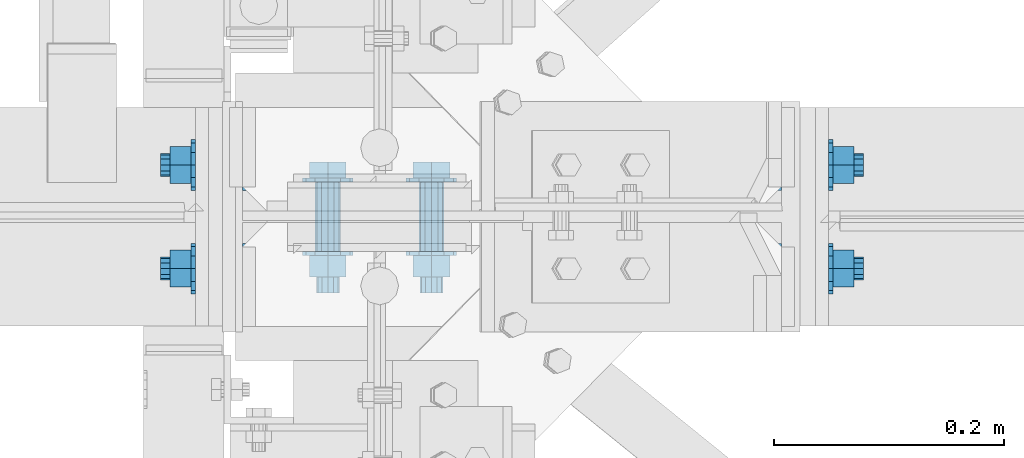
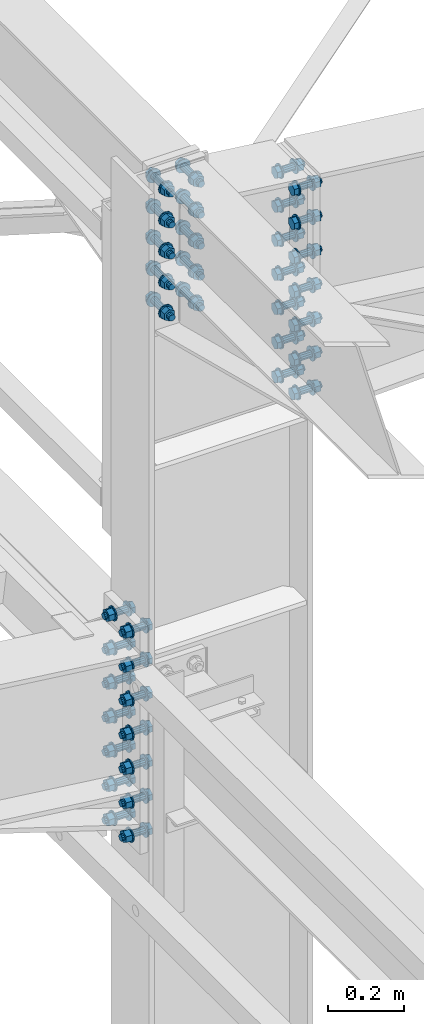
# One storey, part 138 of 3134: 3 mechanical fasteners, 3 elements without a shape of their own.
"""IFC2X3 building model written with IfcOpenShell, lengths in millimetres."""

import ifcopenshell
import ifcopenshell.guid

model = None  # the IFC model being written
_history = None  # IfcOwnerHistory: only IFC2X3 demands one
_inside = {}  # id of a spatial element -> (the spatial element, [elements in it])
_under = {}  # id of a project, library or spatial element -> (it, [spatial elements below it])
_declared = {}  # id of a project -> (the project, [libraries it declares])
_typed = {}  # id of a type object -> (the type object, [elements of that type])
_made_of = {}  # id of a material, layer set ... -> (it, [elements and type objects made of it])


def new_model(schema):
    """Start an empty IFC model of exactly this schema.

    Asked for "IFC4X3", IfcOpenShell would pick the latest addendum, in which some entities
    have other attributes; the version numbers below select the first issue.
    IFC2X3 requires an IfcOwnerHistory on every rooted entity: one is made here for all.
    """
    global model, _history
    if schema == "IFC4X3":
        model = ifcopenshell.file(schema_version=(4, 3, 0, 0))
    else:
        model = ifcopenshell.file(schema=schema)
    _inside.clear()
    _under.clear()
    _declared.clear()
    _typed.clear()
    _made_of.clear()
    _history = None
    if model.schema == "IFC2X3":
        org = make("IfcOrganization", Name="unknown")
        user = make(
            "IfcPersonAndOrganization",
            ThePerson=make("IfcPerson", FamilyName="unknown"),
            TheOrganization=org,
        )
        app = make(
            "IfcApplication",
            ApplicationDeveloper=org,
            Version="unknown",
            ApplicationFullName="unknown",
            ApplicationIdentifier="unknown",
        )
        _history = make(
            "IfcOwnerHistory",
            OwningUser=user,
            OwningApplication=app,
            ChangeAction="ADDED",
            CreationDate=0,
        )
    return model


def make(cls, **values):
    """One entity of the class cls with the attributes given. An attribute that is None is left unset."""
    return model.create_entity(
        cls, **{name: value for name, value in values.items() if value is not None}
    )


def rooted(cls, **values):
    """An entity with a GlobalId (a new one), such as an element, a storey or a relation."""
    return make(cls, GlobalId=ifcopenshell.guid.new(), OwnerHistory=_history, **values)


def si_unit(unit_type, name, prefix=None):
    """IfcSIUnit, for example si_unit("LENGTHUNIT", "METRE", prefix="MILLI")."""
    return make("IfcSIUnit", UnitType=unit_type, Prefix=prefix, Name=name)


def assignment(units):
    """IfcUnitAssignment: the units of a project."""
    return None if units is None else make("IfcUnitAssignment", Units=units)


def point(xyz):
    """IfcCartesianPoint."""
    return None if xyz is None else make("IfcCartesianPoint", Coordinates=xyz)


def direction(xyz):
    """IfcDirection."""
    return None if xyz is None else make("IfcDirection", DirectionRatios=xyz)


def frame(location, z_axis=None, x_axis=None):
    """IfcAxis2Placement3D, a coordinate frame: its origin and axes. An axis left out is left unset."""
    return make(
        "IfcAxis2Placement3D",
        Location=point(location),
        Axis=direction(z_axis),
        RefDirection=direction(x_axis),
    )


def origin_with_axes():
    """The frame at (0, 0, 0) with the z axis (0, 0, 1) and the x axis (1, 0, 0) written out."""
    return frame((0.0, 0.0, 0.0), z_axis=(0.0, 0.0, 1.0), x_axis=(1.0, 0.0, 0.0))


def place(relative_to, where):
    """IfcLocalPlacement: puts the frame where relative to a parent placement (None: the world)."""
    return make(
        "IfcLocalPlacement", PlacementRelTo=relative_to, RelativePlacement=where
    )


def context(
    kind, dimensions, precision=None, world=None, true_north=None, identifier=None
):
    """IfcGeometricRepresentationContext, for example the 3D "Model" context."""
    return make(
        "IfcGeometricRepresentationContext",
        ContextIdentifier=identifier,
        ContextType=kind,
        CoordinateSpaceDimension=dimensions,
        Precision=precision,
        WorldCoordinateSystem=world,
        TrueNorth=true_north,
    )


def subcontext(parent, identifier, kind, view, scale=None):
    """IfcGeometricRepresentationSubContext, for example "Body" below "Model"."""
    return make(
        "IfcGeometricRepresentationSubContext",
        ContextIdentifier=identifier,
        ContextType=kind,
        ParentContext=parent,
        TargetScale=scale,
        TargetView=view,
    )


def project(units=None, contexts=None):
    """IfcProject with its units and contexts."""
    return rooted(
        "IfcProject",
        Name="project",
        RepresentationContexts=contexts,
        UnitsInContext=assignment(units),
    )


def spatial(cls, under=None, at=None, **own):
    """A site, building, storey or space (cls), placed at a placement, below another one or the project."""
    s = rooted(cls, ObjectPlacement=at, **own)
    if under is not None:
        _under.setdefault(under.id(), (under, []))[1].append(s)
    return s


def faces_of(points, faces, orient=None, outer=None):
    """IfcFace entities. A face is a list of loops; a loop is a list of indices into points, from 0.

    orient and outer hold one flag for each loop. By default every Orientation is true, the
    first loop of a face is its IfcFaceOuterBound and the others are IfcFaceBound.
    """
    made = []
    for i, loops in enumerate(faces):
        bounds = []
        for j, loop in enumerate(loops):
            is_outer = j == 0 if outer is None else outer[i][j]
            bounds.append(
                make(
                    "IfcFaceOuterBound" if is_outer else "IfcFaceBound",
                    Bound=make("IfcPolyLoop", Polygon=[points[k] for k in loop]),
                    Orientation=True if orient is None else orient[i][j],
                )
            )
        made.append(make("IfcFace", Bounds=bounds))
    return made


def faceted_brep(points, faces, orient=None, outer=None, voids=None):
    """IfcFacetedBrep: a solid bounded by flat faces; with voids (closed shells), ...WithVoids."""
    shared = [point(p) for p in points]
    hull = make("IfcClosedShell", CfsFaces=faces_of(shared, faces, orient, outer))
    if voids is None:
        return make("IfcFacetedBrep", Outer=hull)
    return make(
        "IfcFacetedBrepWithVoids",
        Outer=hull,
        Voids=[
            make(cls, CfsFaces=faces_of(shared, fs, o, b)) for cls, fs, o, b in voids
        ],
    )


def shape(context_of_items, identifier, shape_type, items):
    """IfcShapeRepresentation: the items that make up one representation, for example the "Body"."""
    return make(
        "IfcShapeRepresentation",
        ContextOfItems=context_of_items,
        RepresentationIdentifier=identifier,
        RepresentationType=shape_type,
        Items=items,
    )


def source(mapping_origin, context_of_items, identifier, shape_type, items):
    """IfcRepresentationMap: a shape defined once, which mapped items show again and again."""
    return make(
        "IfcRepresentationMap",
        MappingOrigin=mapping_origin,
        MappedRepresentation=shape(context_of_items, identifier, shape_type, items),
    )


def transform(
    local_origin,
    x_axis=None,
    y_axis=None,
    z_axis=None,
    scale=None,
    scale2=None,
    scale3=None,
    uniform=True,
):
    """IfcCartesianTransformationOperator3D, or its non-uniform kind. x_axis, y_axis, z_axis: its Axis1, 2, 3."""
    if uniform:
        return make(
            "IfcCartesianTransformationOperator3D",
            Axis1=direction(x_axis),
            Axis2=direction(y_axis),
            LocalOrigin=point(local_origin),
            Scale=scale,
            Axis3=direction(z_axis),
        )
    return make(
        "IfcCartesianTransformationOperator3DnonUniform",
        Axis1=direction(x_axis),
        Axis2=direction(y_axis),
        LocalOrigin=point(local_origin),
        Scale=scale,
        Axis3=direction(z_axis),
        Scale2=scale2,
        Scale3=scale3,
    )


def mapped(mapping_source, mapping_target):
    """IfcMappedItem: shows the shape of a source again, moved by a transform."""
    return make(
        "IfcMappedItem", MappingSource=mapping_source, MappingTarget=mapping_target
    )


def material(Name=None, Category=None):
    """IfcMaterial."""
    return make("IfcMaterial", Name=Name, Category=Category)


def made_of(thing, what):
    """Note that an element or type object is made of a material, layer set ...; save() writes the relation."""
    if what is not None:
        _made_of.setdefault(what.id(), (what, []))[1].append(thing)
    return thing


def type_object(cls, material=None, **own):
    """A type object (cls), such as IfcWallType, which elements share."""
    return made_of(rooted(cls, **own), material)


def element(
    cls,
    number,
    at=None,
    inside=None,
    cuts=None,
    type_object=None,
    material=None,
    context=None,
    identifier="Body",
    shape_type=None,
    held_by="IfcProductDefinitionShape",
    body=None,
    shapes=None,
    **own,
):
    """One element of the class cls, such as IfcWall. Its Tag is "e" and its number.

    at: its placement. inside: the storey or other place that contains it. cuts: it is an
    opening in that element (IfcRelVoidsElement). A single representation is given by context,
    identifier, shape_type and body (its items); several are given by shapes. held_by: the class
    of the entity that holds the representations. save() writes the other relations.
    """
    e = rooted(cls, Tag="e%d" % number, ObjectPlacement=at, **own)
    if body is not None:
        shapes = [shape(context, identifier, shape_type, body)]
    if shapes is not None:
        e.Representation = make(held_by, Representations=shapes)
    if inside is not None:
        _inside.setdefault(inside.id(), (inside, []))[1].append(e)
    if cuts is not None:
        rooted(
            "IfcRelVoidsElement", RelatingBuildingElement=cuts, RelatedOpeningElement=e
        )
    if type_object is not None:
        _typed.setdefault(type_object.id(), (type_object, []))[1].append(e)
    return made_of(e, material)


def aggregate(whole, parts):
    """IfcRelAggregates: a whole, such as a stair, and the parts it consists of."""
    return rooted("IfcRelAggregates", RelatingObject=whole, RelatedObjects=parts)


def save(model, path):
    """Write the relations noted so far, then the file.

    IfcRelAggregates (storeys below a building ...), IfcRelContainedInSpatialStructure (elements
    in a storey), IfcRelDefinesByType, IfcRelAssociatesMaterial and IfcRelDeclares: one each for
    every whole, place, type object, material and project.
    """
    for whole, parts in _under.values():
        aggregate(whole, parts)
    for where, things in _inside.values():
        rooted(
            "IfcRelContainedInSpatialStructure",
            RelatedElements=things,
            RelatingStructure=where,
        )
    for kind, things in _typed.values():
        rooted("IfcRelDefinesByType", RelatedObjects=things, RelatingType=kind)
    for what, things in _made_of.values():
        rooted("IfcRelAssociatesMaterial", RelatedObjects=things, RelatingMaterial=what)
    for by, libraries in _declared.values():
        rooted("IfcRelDeclares", RelatingContext=by, RelatedDefinitions=libraries)
    model.write(path)


model = new_model("IFC2X3")

# Units and contexts
model_context = context("Model", 3, precision=1e-05, world=origin_with_axes())
body_context = subcontext(model_context, "Body", "Model", "MODEL_VIEW")
ifc_project = project(units=[si_unit("LENGTHUNIT", "METRE", prefix="MILLI"), si_unit("AREAUNIT", "SQUARE_METRE"), si_unit("VOLUMEUNIT", "CUBIC_METRE"), si_unit("MASSUNIT", "GRAM", prefix="KILO"), si_unit("TIMEUNIT", "SECOND"), si_unit("PLANEANGLEUNIT", "RADIAN"), si_unit("SOLIDANGLEUNIT", "STERADIAN"), si_unit("THERMODYNAMICTEMPERATUREUNIT", "DEGREE_CELSIUS"), si_unit("LUMINOUSINTENSITYUNIT", "LUMEN")], contexts=[model_context])

# Site, building, storey
site_placement = place(None, origin_with_axes())
site = spatial("IfcSite", under=ifc_project, at=site_placement, CompositionType="ELEMENT")
building_placement = place(site_placement, origin_with_axes())
building = spatial("IfcBuilding", under=site, at=building_placement, Name="Undefined", CompositionType="ELEMENT")
storey_placement = place(building_placement, origin_with_axes())
storey = spatial("IfcBuildingStorey", under=building, at=storey_placement, Name="Undefined", CompositionType="ELEMENT", Elevation=0.0)

# Assembly, mechanical fastener
assembly_1_placement = place(storey_placement, origin_with_axes())
assembly_1 = element("IfcElementAssembly", 1, at=assembly_1_placement, inside=storey, Name="IPE450", AssemblyPlace="NOTDEFINED", PredefinedType="RIGID_FRAME")
ifc_material = material(Name="HR10.9")
mechanical_fastener_type = type_object("IfcMechanicalFastenerType", Name="Bolt assembly")
shared_shape_1 = source(origin_with_axes(), body_context, "Body", "Brep", [
    faceted_brep([(18.475208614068, -33.599999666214, 0.0), (9.23760430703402, -33.599999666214, 16.0), (-9.23760430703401, -33.599999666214, 16.0), (-18.475208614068, -33.599999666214, 2.2625605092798e-15), (-9.23760430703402, -33.599999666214, -16.0), (9.237604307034, -33.599999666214, -16.0), (9.237604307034, -19.7000000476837, -16.0), (-9.23760430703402, -19.7000000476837, -16.0), (-18.475208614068, -19.7000000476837, 2.2625605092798e-15), (-9.23760430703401, -19.7000000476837, 16.0), (9.23760430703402, -19.7000000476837, 16.0), (18.475208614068, -19.7000000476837, 0.0), (10.0, -19.7000000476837, 0.0), (8.66025403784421, -19.7000000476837, 5.0000000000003), (4.9999999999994, -19.7000000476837, 8.66025403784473), (-1.03633598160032e-12, -19.7000000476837, 10.0), (-5.00000000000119, -19.7000000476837, 8.6602540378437), (-8.66025403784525, -19.7000000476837, 4.99999999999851), (-10.0, -19.7000000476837, -2.07267196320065e-12), (-8.66025403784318, -19.7000000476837, -5.00000000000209), (-4.99999999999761, -19.7000000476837, -8.66025403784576), (3.09790571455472e-12, -19.7000000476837, -10.0), (5.00000000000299, -19.7000000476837, -8.66025403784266), (8.66025403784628, -19.7000000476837, -4.99999999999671), (8.66025403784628, 55.2999999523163, -4.99999999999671), (5.00000000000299, 55.2999999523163, -8.66025403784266), (3.09790571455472e-12, 55.2999999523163, -10.0), (-4.99999999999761, 55.2999999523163, -8.66025403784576), (-8.66025403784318, 55.2999999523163, -5.00000000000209), (-10.0, 55.2999999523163, -2.07267196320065e-12), (-8.66025403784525, 55.2999999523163, 4.99999999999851), (-5.00000000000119, 55.2999999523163, 8.6602540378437), (-1.03633598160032e-12, 55.2999999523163, 10.0), (4.9999999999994, 55.2999999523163, 8.66025403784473), (8.66025403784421, 55.2999999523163, 5.0000000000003), (10.0, 55.2999999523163, 0.0), (22.0, -19.7000000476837, 0.0), (19.0525588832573, -19.7000000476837, 11.0000000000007), (10.9999999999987, -19.7000000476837, 19.0525588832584), (-2.27993915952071e-12, -19.7000000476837, 22.0), (-11.0000000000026, -19.7000000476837, 19.0525588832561), (-19.0525588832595, -19.7000000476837, 10.9999999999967), (-22.0, -19.7000000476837, -4.55987831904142e-12), (-19.052558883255, -19.7000000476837, -11.0000000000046), (-10.9999999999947, -19.7000000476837, -19.0525588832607), (6.81539257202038e-12, -19.7000000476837, -22.0), (11.0000000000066, -19.7000000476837, -19.0525588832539), (19.0525588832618, -19.7000000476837, -10.9999999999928), (19.0525588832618, -16.0, -10.9999999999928), (11.0000000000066, -16.0, -19.0525588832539), (6.81539257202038e-12, -16.0, -22.0), (-10.9999999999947, -16.0, -19.0525588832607), (-19.052558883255, -16.0, -11.0000000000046), (-22.0, -16.0, -4.55987831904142e-12), (-19.0525588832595, -16.0, 10.9999999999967), (-11.0000000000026, -16.0, 19.0525588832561), (-2.27993915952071e-12, -16.0, 22.0), (10.9999999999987, -16.0, 19.0525588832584), (19.0525588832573, -16.0, 11.0000000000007), (22.0, -16.0, 0.0), (22.0, 25.0, 0.0), (19.0525588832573, 25.0, 11.0000000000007), (10.9999999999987, 25.0, 19.0525588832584), (-2.27993915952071e-12, 25.0, 22.0), (-11.0000000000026, 25.0, 19.0525588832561), (-19.0525588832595, 25.0, 10.9999999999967), (-22.0, 25.0, -4.55987831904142e-12), (-19.052558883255, 25.0, -11.0000000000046), (-10.9999999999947, 25.0, -19.0525588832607), (6.81539257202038e-12, 25.0, -22.0), (11.0000000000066, 25.0, -19.0525588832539), (19.0525588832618, 25.0, -10.9999999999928), (19.0525588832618, 28.7000000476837, -10.9999999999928), (11.0000000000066, 28.7000000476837, -19.0525588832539), (6.81539257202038e-12, 28.7000000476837, -22.0), (-10.9999999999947, 28.7000000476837, -19.0525588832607), (-19.052558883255, 28.7000000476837, -11.0000000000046), (-22.0, 28.7000000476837, -4.55987831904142e-12), (-19.0525588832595, 28.7000000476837, 10.9999999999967), (-11.0000000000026, 28.7000000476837, 19.0525588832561), (-2.27993915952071e-12, 28.7000000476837, 22.0), (10.9999999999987, 28.7000000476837, 19.0525588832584), (19.0525588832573, 28.7000000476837, 11.0000000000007), (22.0, 28.7000000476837, 0.0), (18.475208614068, 28.7000000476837, 0.0), (9.23760430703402, 28.7000000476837, 16.0), (-9.23760430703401, 28.7000000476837, 16.0), (-18.475208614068, 28.7000000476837, 2.2625605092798e-15), (-9.23760430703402, 28.7000000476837, -16.0), (9.237604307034, 28.7000000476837, -16.0), (9.237604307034, 47.2499992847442, -16.0), (-9.23760430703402, 47.2499992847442, -16.0), (-18.475208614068, 47.2499992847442, 2.2625605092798e-15), (-9.23760430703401, 47.2499992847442, 16.0), (9.23760430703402, 47.2499992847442, 16.0), (18.475208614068, 47.2499992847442, 0.0)], [[[0, 1, 2, 3, 4, 5]], [[6, 7, 8, 9, 10, 11]], [[0, 11, 10, 1]], [[1, 10, 9, 2]], [[2, 9, 8, 3]], [[3, 8, 7, 4]], [[4, 7, 6, 5]], [[5, 6, 11, 0]], [[12, 13, 14, 15, 16, 17, 18, 19, 20, 21, 22, 23]], [[24, 25, 26, 27, 28, 29, 30, 31, 32, 33, 34, 35]], [[12, 35, 34, 13]], [[13, 34, 33, 14]], [[14, 33, 32, 15]], [[15, 32, 31, 16]], [[16, 31, 30, 17]], [[17, 30, 29, 18]], [[18, 29, 28, 19]], [[19, 28, 27, 20]], [[20, 27, 26, 21]], [[21, 26, 25, 22]], [[22, 25, 24, 23]], [[23, 24, 35, 12]], [[36, 37, 38, 39, 40, 41, 42, 43, 44, 45, 46, 47]], [[48, 49, 50, 51, 52, 53, 54, 55, 56, 57, 58, 59]], [[36, 59, 58, 37]], [[37, 58, 57, 38]], [[38, 57, 56, 39]], [[39, 56, 55, 40]], [[40, 55, 54, 41]], [[41, 54, 53, 42]], [[42, 53, 52, 43]], [[43, 52, 51, 44]], [[44, 51, 50, 45]], [[45, 50, 49, 46]], [[46, 49, 48, 47]], [[47, 48, 59, 36]], [[60, 61, 62, 63, 64, 65, 66, 67, 68, 69, 70, 71]], [[72, 73, 74, 75, 76, 77, 78, 79, 80, 81, 82, 83]], [[60, 83, 82, 61]], [[61, 82, 81, 62]], [[62, 81, 80, 63]], [[63, 80, 79, 64]], [[64, 79, 78, 65]], [[65, 78, 77, 66]], [[66, 77, 76, 67]], [[67, 76, 75, 68]], [[68, 75, 74, 69]], [[69, 74, 73, 70]], [[70, 73, 72, 71]], [[71, 72, 83, 60]], [[84, 85, 86, 87, 88, 89]], [[90, 91, 92, 93, 94, 95]], [[84, 95, 94, 85]], [[85, 94, 93, 86]], [[86, 93, 92, 87]], [[87, 92, 91, 88]], [[88, 91, 90, 89]], [[89, 90, 95, 84]]]),
    faceted_brep([(11.0, -15.9, 0.0), (9.52627944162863, -15.9, 5.50000000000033), (5.49999999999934, -15.9, 9.5262794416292), (-1.13996957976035e-12, -15.9, 11.0), (-5.50000000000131, -15.9, 9.52627944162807), (-9.52627944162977, -15.9, 5.49999999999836), (-11.0, -15.9, -2.27993915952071e-12), (-9.5262794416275, -15.9, -5.5000000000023), (-5.49999999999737, -15.9, -9.52627944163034), (3.40769628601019e-12, -15.9, -11.0), (5.50000000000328, -15.9, -9.52627944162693), (9.52627944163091, -15.9, -5.49999999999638), (9.52627944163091, 0.0999999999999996, -5.49999999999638), (5.50000000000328, 0.0999999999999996, -9.52627944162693), (3.40769628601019e-12, 0.0999999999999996, -11.0), (-5.49999999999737, 0.0999999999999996, -9.52627944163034), (-9.5262794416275, 0.0999999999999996, -5.5000000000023), (-11.0, 0.0999999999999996, -2.27993915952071e-12), (-9.52627944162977, 0.0999999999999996, 5.49999999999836), (-5.50000000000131, 0.0999999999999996, 9.52627944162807), (-1.13996957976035e-12, 0.0999999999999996, 11.0), (5.49999999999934, 0.0999999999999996, 9.5262794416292), (9.52627944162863, 0.0999999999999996, 5.50000000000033), (11.0, 0.0999999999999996, 0.0), (11.0, -0.1, 0.0), (9.52627944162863, -0.1, 5.50000000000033), (5.49999999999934, -0.1, 9.5262794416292), (-1.13996957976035e-12, -0.1, 11.0), (-5.50000000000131, -0.1, 9.52627944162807), (-9.52627944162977, -0.1, 5.49999999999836), (-11.0, -0.1, -2.27993915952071e-12), (-9.5262794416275, -0.1, -5.5000000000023), (-5.49999999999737, -0.1, -9.52627944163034), (3.40769628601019e-12, -0.1, -11.0), (5.50000000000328, -0.1, -9.52627944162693), (9.52627944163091, -0.1, -5.49999999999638), (9.52627944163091, 25.0, -5.49999999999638), (5.50000000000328, 25.0, -9.52627944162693), (3.40769628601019e-12, 25.0, -11.0), (-5.49999999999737, 25.0, -9.52627944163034), (-9.5262794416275, 25.0, -5.5000000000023), (-11.0, 25.0, -2.27993915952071e-12), (-9.52627944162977, 25.0, 5.49999999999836), (-5.50000000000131, 25.0, 9.52627944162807), (-1.13996957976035e-12, 25.0, 11.0), (5.49999999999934, 25.0, 9.5262794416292), (9.52627944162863, 25.0, 5.50000000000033), (11.0, 25.0, 0.0)], [[[0, 1, 2, 3, 4, 5, 6, 7, 8, 9, 10, 11]], [[12, 13, 14, 15, 16, 17, 18, 19, 20, 21, 22, 23]], [[0, 23, 22, 1]], [[1, 22, 21, 2]], [[2, 21, 20, 3]], [[3, 20, 19, 4]], [[4, 19, 18, 5]], [[5, 18, 17, 6]], [[6, 17, 16, 7]], [[7, 16, 15, 8]], [[8, 15, 14, 9]], [[9, 14, 13, 10]], [[10, 13, 12, 11]], [[11, 12, 23, 0]], [[24, 25, 26, 27, 28, 29, 30, 31, 32, 33, 34, 35]], [[36, 37, 38, 39, 40, 41, 42, 43, 44, 45, 46, 47]], [[24, 47, 46, 25]], [[25, 46, 45, 26]], [[26, 45, 44, 27]], [[27, 44, 43, 28]], [[28, 43, 42, 29]], [[29, 42, 41, 30]], [[30, 41, 40, 31]], [[31, 40, 39, 32]], [[32, 39, 38, 33]], [[33, 38, 37, 34]], [[34, 37, 36, 35]], [[35, 36, 47, 24]]]),
])
mechanical_fastener_1_placement = place(assembly_1_placement, frame((44565.0, 19450.0, 5711.36541521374), z_axis=(0.0, -1.0, 0.0), x_axis=(0.0, 0.0, -1.0)))
mechanical_fastener_1 = element("IfcMechanicalFastener", 2, at=mechanical_fastener_1_placement, type_object=mechanical_fastener_type, material=ifc_material, Name="Bolt assembly", NominalDiameter=20.0, NominalLength=75.0, context=body_context, shape_type="MappedRepresentation", body=[
    mapped(shared_shape_1, transform((0.0, 0.0, -45.0))),
    mapped(shared_shape_1, transform((0.0, 0.0, 45.0))),
    mapped(shared_shape_1, transform((110.0, 0.0, -45.0))),
    mapped(shared_shape_1, transform((110.0, 0.0, 45.0))),
    mapped(shared_shape_1, transform((220.0, 0.0, -45.0))),
    mapped(shared_shape_1, transform((220.0, 0.0, 45.0))),
    mapped(shared_shape_1, transform((330.0, 0.0, -45.0))),
    mapped(shared_shape_1, transform((330.0, 0.0, 45.0))),
    mapped(shared_shape_1, transform((440.0, 0.0, -45.0))),
    mapped(shared_shape_1, transform((440.0, 0.0, 45.0))),
    mapped(shared_shape_1, transform((550.0, 0.0, -45.0))),
    mapped(shared_shape_1, transform((550.0, 0.0, 45.0))),
    mapped(shared_shape_1, transform((660.0, 0.0, -45.0))),
    mapped(shared_shape_1, transform((660.0, 0.0, 45.0))),
])
aggregate(assembly_1, [mechanical_fastener_1])

assembly_2_placement = place(storey_placement, origin_with_axes())
assembly_2 = element("IfcElementAssembly", 3, at=assembly_2_placement, inside=storey, Name="IPE450", AssemblyPlace="NOTDEFINED", PredefinedType="RIGID_FRAME")
mechanical_fastener_2_placement = place(assembly_2_placement, frame((44065.0, 19450.0, 4461.54211857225), z_axis=(0.0, 1.0, 0.0), x_axis=(0.0, 0.0, -1.0)))
mechanical_fastener_2 = element("IfcMechanicalFastener", 4, at=mechanical_fastener_2_placement, type_object=mechanical_fastener_type, material=ifc_material, Name="Bolt assembly", NominalDiameter=20.0, NominalLength=75.0, context=body_context, shape_type="MappedRepresentation", body=[
    mapped(shared_shape_1, transform((0.0, 0.0, -45.0))),
    mapped(shared_shape_1, transform((0.0, 0.0, 45.0))),
    mapped(shared_shape_1, transform((110.0, 0.0, -45.0))),
    mapped(shared_shape_1, transform((110.0, 0.0, 45.0))),
    mapped(shared_shape_1, transform((220.0, 0.0, -45.0))),
    mapped(shared_shape_1, transform((220.0, 0.0, 45.0))),
    mapped(shared_shape_1, transform((330.0, 0.0, -45.0))),
    mapped(shared_shape_1, transform((330.0, 0.0, 45.0))),
    mapped(shared_shape_1, transform((440.0, 0.0, -45.0))),
    mapped(shared_shape_1, transform((440.0, 0.0, 45.0))),
    mapped(shared_shape_1, transform((550.0, 0.0, -45.0))),
    mapped(shared_shape_1, transform((550.0, 0.0, 45.0))),
    mapped(shared_shape_1, transform((660.0, 0.0, -45.0))),
    mapped(shared_shape_1, transform((660.0, 0.0, 45.0))),
])
aggregate(assembly_2, [mechanical_fastener_2])

assembly_3_placement = place(storey_placement, origin_with_axes())
assembly_3 = element("IfcElementAssembly", 5, at=assembly_3_placement, inside=storey, Name="300", AssemblyPlace="NOTDEFINED", PredefinedType="RIGID_FRAME")
shared_shape_2 = source(origin_with_axes(), body_context, "Body", "Brep", [
    faceted_brep([(18.475208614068, -47.6999994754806, 0.0), (9.23760430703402, -47.6999994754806, 16.0), (-9.23760430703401, -47.6999994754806, 16.0), (-18.475208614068, -47.6999994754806, 2.2625605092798e-15), (-9.23760430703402, -47.6999994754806, -16.0), (9.237604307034, -47.6999994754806, -16.0), (9.237604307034, -33.7999998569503, -16.0), (-9.23760430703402, -33.7999998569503, -16.0), (-18.475208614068, -33.7999998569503, 2.2625605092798e-15), (-9.23760430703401, -33.7999998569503, 16.0), (9.23760430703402, -33.7999998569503, 16.0), (18.475208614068, -33.7999998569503, 0.0), (10.0, -33.7999998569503, 0.0), (8.66025403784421, -33.7999998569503, 5.0000000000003), (4.9999999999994, -33.7999998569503, 8.66025403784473), (-1.03633598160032e-12, -33.7999998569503, 10.0), (-5.00000000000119, -33.7999998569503, 8.6602540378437), (-8.66025403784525, -33.7999998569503, 4.99999999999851), (-10.0, -33.7999998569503, -2.07267196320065e-12), (-8.66025403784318, -33.7999998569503, -5.00000000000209), (-4.99999999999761, -33.7999998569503, -8.66025403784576), (3.09790571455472e-12, -33.7999998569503, -10.0), (5.00000000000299, -33.7999998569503, -8.66025403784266), (8.66025403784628, -33.7999998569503, -4.99999999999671), (8.66025403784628, 66.2000001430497, -4.99999999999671), (5.00000000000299, 66.2000001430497, -8.66025403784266), (3.09790571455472e-12, 66.2000001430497, -10.0), (-4.99999999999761, 66.2000001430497, -8.66025403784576), (-8.66025403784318, 66.2000001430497, -5.00000000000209), (-10.0, 66.2000001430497, -2.07267196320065e-12), (-8.66025403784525, 66.2000001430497, 4.99999999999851), (-5.00000000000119, 66.2000001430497, 8.6602540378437), (-1.03633598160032e-12, 66.2000001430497, 10.0), (4.9999999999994, 66.2000001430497, 8.66025403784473), (8.66025403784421, 66.2000001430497, 5.0000000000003), (10.0, 66.2000001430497, 0.0), (22.0, -33.7999998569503, 0.0), (19.0525588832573, -33.7999998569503, 11.0000000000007), (10.9999999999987, -33.7999998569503, 19.0525588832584), (-2.27993915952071e-12, -33.7999998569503, 22.0), (-11.0000000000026, -33.7999998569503, 19.0525588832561), (-19.0525588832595, -33.7999998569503, 10.9999999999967), (-22.0, -33.7999998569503, -4.55987831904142e-12), (-19.052558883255, -33.7999998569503, -11.0000000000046), (-10.9999999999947, -33.7999998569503, -19.0525588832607), (6.81539257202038e-12, -33.7999998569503, -22.0), (11.0000000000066, -33.7999998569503, -19.0525588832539), (19.0525588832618, -33.7999998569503, -10.9999999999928), (19.0525588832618, -30.0999998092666, -10.9999999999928), (11.0000000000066, -30.0999998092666, -19.0525588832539), (6.81539257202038e-12, -30.0999998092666, -22.0), (-10.9999999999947, -30.0999998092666, -19.0525588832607), (-19.052558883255, -30.0999998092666, -11.0000000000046), (-22.0, -30.0999998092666, -4.55987831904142e-12), (-19.0525588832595, -30.0999998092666, 10.9999999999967), (-11.0000000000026, -30.0999998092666, 19.0525588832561), (-2.27993915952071e-12, -30.0999998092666, 22.0), (10.9999999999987, -30.0999998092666, 19.0525588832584), (19.0525588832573, -30.0999998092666, 11.0000000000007), (22.0, -30.0999998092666, 0.0), (22.0, 30.0999999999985, 0.0), (19.0525588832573, 30.0999999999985, 11.0000000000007), (10.9999999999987, 30.0999999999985, 19.0525588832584), (-2.27993915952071e-12, 30.0999999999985, 22.0), (-11.0000000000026, 30.0999999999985, 19.0525588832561), (-19.0525588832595, 30.0999999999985, 10.9999999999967), (-22.0, 30.0999999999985, -4.55987831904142e-12), (-19.052558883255, 30.0999999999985, -11.0000000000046), (-10.9999999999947, 30.0999999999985, -19.0525588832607), (6.81539257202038e-12, 30.0999999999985, -22.0), (11.0000000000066, 30.0999999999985, -19.0525588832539), (19.0525588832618, 30.0999999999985, -10.9999999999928), (19.0525588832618, 33.8000000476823, -10.9999999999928), (11.0000000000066, 33.8000000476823, -19.0525588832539), (6.81539257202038e-12, 33.8000000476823, -22.0), (-10.9999999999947, 33.8000000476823, -19.0525588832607), (-19.052558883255, 33.8000000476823, -11.0000000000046), (-22.0, 33.8000000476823, -4.55987831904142e-12), (-19.0525588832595, 33.8000000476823, 10.9999999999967), (-11.0000000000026, 33.8000000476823, 19.0525588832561), (-2.27993915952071e-12, 33.8000000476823, 22.0), (10.9999999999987, 33.8000000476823, 19.0525588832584), (19.0525588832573, 33.8000000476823, 11.0000000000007), (22.0, 33.8000000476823, 0.0), (18.475208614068, 33.8000000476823, 0.0), (9.23760430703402, 33.8000000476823, 16.0), (-9.23760430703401, 33.8000000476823, 16.0), (-18.475208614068, 33.8000000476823, 2.2625605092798e-15), (-9.23760430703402, 33.8000000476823, -16.0), (9.237604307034, 33.8000000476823, -16.0), (9.237604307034, 52.3499992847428, -16.0), (-9.23760430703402, 52.3499992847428, -16.0), (-18.475208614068, 52.3499992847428, 2.2625605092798e-15), (-9.23760430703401, 52.3499992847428, 16.0), (9.23760430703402, 52.3499992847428, 16.0), (18.475208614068, 52.3499992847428, 0.0)], [[[0, 1, 2, 3, 4, 5]], [[6, 7, 8, 9, 10, 11]], [[0, 11, 10, 1]], [[1, 10, 9, 2]], [[2, 9, 8, 3]], [[3, 8, 7, 4]], [[4, 7, 6, 5]], [[5, 6, 11, 0]], [[12, 13, 14, 15, 16, 17, 18, 19, 20, 21, 22, 23]], [[24, 25, 26, 27, 28, 29, 30, 31, 32, 33, 34, 35]], [[12, 35, 34, 13]], [[13, 34, 33, 14]], [[14, 33, 32, 15]], [[15, 32, 31, 16]], [[16, 31, 30, 17]], [[17, 30, 29, 18]], [[18, 29, 28, 19]], [[19, 28, 27, 20]], [[20, 27, 26, 21]], [[21, 26, 25, 22]], [[22, 25, 24, 23]], [[23, 24, 35, 12]], [[36, 37, 38, 39, 40, 41, 42, 43, 44, 45, 46, 47]], [[48, 49, 50, 51, 52, 53, 54, 55, 56, 57, 58, 59]], [[36, 59, 58, 37]], [[37, 58, 57, 38]], [[38, 57, 56, 39]], [[39, 56, 55, 40]], [[40, 55, 54, 41]], [[41, 54, 53, 42]], [[42, 53, 52, 43]], [[43, 52, 51, 44]], [[44, 51, 50, 45]], [[45, 50, 49, 46]], [[46, 49, 48, 47]], [[47, 48, 59, 36]], [[60, 61, 62, 63, 64, 65, 66, 67, 68, 69, 70, 71]], [[72, 73, 74, 75, 76, 77, 78, 79, 80, 81, 82, 83]], [[60, 83, 82, 61]], [[61, 82, 81, 62]], [[62, 81, 80, 63]], [[63, 80, 79, 64]], [[64, 79, 78, 65]], [[65, 78, 77, 66]], [[66, 77, 76, 67]], [[67, 76, 75, 68]], [[68, 75, 74, 69]], [[69, 74, 73, 70]], [[70, 73, 72, 71]], [[71, 72, 83, 60]], [[84, 85, 86, 87, 88, 89]], [[90, 91, 92, 93, 94, 95]], [[84, 95, 94, 85]], [[85, 94, 93, 86]], [[86, 93, 92, 87]], [[87, 92, 91, 88]], [[88, 91, 90, 89]], [[89, 90, 95, 84]]]),
    faceted_brep([(11.0, -5.09999980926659, 0.0), (9.52627944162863, -5.09999980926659, 5.50000000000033), (5.49999999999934, -5.09999980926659, 9.5262794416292), (-1.13996957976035e-12, -5.09999980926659, 11.0), (-5.50000000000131, -5.09999980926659, 9.52627944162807), (-9.52627944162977, -5.09999980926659, 5.49999999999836), (-11.0, -5.09999980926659, -2.27993915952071e-12), (-9.5262794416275, -5.09999980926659, -5.5000000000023), (-5.49999999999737, -5.09999980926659, -9.52627944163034), (3.40769628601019e-12, -5.09999980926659, -11.0), (5.50000000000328, -5.09999980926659, -9.52627944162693), (9.52627944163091, -5.09999980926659, -5.49999999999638), (9.52627944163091, 5.09999999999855, -5.49999999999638), (5.50000000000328, 5.09999999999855, -9.52627944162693), (3.40769628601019e-12, 5.09999999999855, -11.0), (-5.49999999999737, 5.09999999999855, -9.52627944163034), (-9.5262794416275, 5.09999999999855, -5.5000000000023), (-11.0, 5.09999999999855, -2.27993915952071e-12), (-9.52627944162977, 5.09999999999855, 5.49999999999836), (-5.50000000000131, 5.09999999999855, 9.52627944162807), (-1.13996957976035e-12, 5.09999999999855, 11.0), (5.49999999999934, 5.09999999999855, 9.5262794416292), (9.52627944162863, 5.09999999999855, 5.50000000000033), (11.0, 5.09999999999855, 0.0), (11.0, -29.9999998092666, 0.0), (9.52627944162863, -29.9999998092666, 5.50000000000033), (5.49999999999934, -29.9999998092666, 9.5262794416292), (-1.13996957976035e-12, -29.9999998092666, 11.0), (-5.50000000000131, -29.9999998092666, 9.52627944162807), (-9.52627944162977, -29.9999998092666, 5.49999999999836), (-11.0, -29.9999998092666, -2.27993915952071e-12), (-9.5262794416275, -29.9999998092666, -5.5000000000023), (-5.49999999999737, -29.9999998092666, -9.52627944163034), (3.40769628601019e-12, -29.9999998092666, -11.0), (5.50000000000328, -29.9999998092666, -9.52627944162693), (9.52627944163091, -29.9999998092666, -5.49999999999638), (9.52627944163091, -4.99999980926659, -5.49999999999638), (5.50000000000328, -4.99999980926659, -9.52627944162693), (3.40769628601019e-12, -4.99999980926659, -11.0), (-5.49999999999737, -4.99999980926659, -9.52627944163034), (-9.5262794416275, -4.99999980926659, -5.5000000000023), (-11.0, -4.99999980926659, -2.27993915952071e-12), (-9.52627944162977, -4.99999980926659, 5.49999999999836), (-5.50000000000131, -4.99999980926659, 9.52627944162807), (-1.13996957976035e-12, -4.99999980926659, 11.0), (5.49999999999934, -4.99999980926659, 9.5262794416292), (9.52627944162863, -4.99999980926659, 5.50000000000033), (11.0, -4.99999980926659, 0.0), (11.0, 4.99999999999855, 0.0), (9.52627944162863, 4.99999999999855, 5.50000000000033), (5.49999999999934, 4.99999999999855, 9.5262794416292), (-1.13996957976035e-12, 4.99999999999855, 11.0), (-5.50000000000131, 4.99999999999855, 9.52627944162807), (-9.52627944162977, 4.99999999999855, 5.49999999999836), (-11.0, 4.99999999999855, -2.27993915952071e-12), (-9.5262794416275, 4.99999999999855, -5.5000000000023), (-5.49999999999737, 4.99999999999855, -9.52627944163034), (3.40769628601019e-12, 4.99999999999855, -11.0), (5.50000000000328, 4.99999999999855, -9.52627944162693), (9.52627944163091, 4.99999999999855, -5.49999999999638), (9.52627944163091, 30.0999999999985, -5.49999999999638), (5.50000000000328, 30.0999999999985, -9.52627944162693), (3.40769628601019e-12, 30.0999999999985, -11.0), (-5.49999999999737, 30.0999999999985, -9.52627944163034), (-9.5262794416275, 30.0999999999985, -5.5000000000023), (-11.0, 30.0999999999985, -2.27993915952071e-12), (-9.52627944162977, 30.0999999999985, 5.49999999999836), (-5.50000000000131, 30.0999999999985, 9.52627944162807), (-1.13996957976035e-12, 30.0999999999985, 11.0), (5.49999999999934, 30.0999999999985, 9.5262794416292), (9.52627944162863, 30.0999999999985, 5.50000000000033), (11.0, 30.0999999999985, 0.0)], [[[0, 1, 2, 3, 4, 5, 6, 7, 8, 9, 10, 11]], [[12, 13, 14, 15, 16, 17, 18, 19, 20, 21, 22, 23]], [[0, 23, 22, 1]], [[1, 22, 21, 2]], [[2, 21, 20, 3]], [[3, 20, 19, 4]], [[4, 19, 18, 5]], [[5, 18, 17, 6]], [[6, 17, 16, 7]], [[7, 16, 15, 8]], [[8, 15, 14, 9]], [[9, 14, 13, 10]], [[10, 13, 12, 11]], [[11, 12, 23, 0]], [[24, 25, 26, 27, 28, 29, 30, 31, 32, 33, 34, 35]], [[36, 37, 38, 39, 40, 41, 42, 43, 44, 45, 46, 47]], [[24, 47, 46, 25]], [[25, 46, 45, 26]], [[26, 45, 44, 27]], [[27, 44, 43, 28]], [[28, 43, 42, 29]], [[29, 42, 41, 30]], [[30, 41, 40, 31]], [[31, 40, 39, 32]], [[32, 39, 38, 33]], [[33, 38, 37, 34]], [[34, 37, 36, 35]], [[35, 36, 47, 24]], [[48, 49, 50, 51, 52, 53, 54, 55, 56, 57, 58, 59]], [[60, 61, 62, 63, 64, 65, 66, 67, 68, 69, 70, 71]], [[48, 71, 70, 49]], [[49, 70, 69, 50]], [[50, 69, 68, 51]], [[51, 68, 67, 52]], [[52, 67, 66, 53]], [[53, 66, 65, 54]], [[54, 65, 64, 55]], [[55, 64, 63, 56]], [[56, 63, 62, 57]], [[57, 62, 61, 58]], [[58, 61, 60, 59]], [[59, 60, 71, 48]]]),
])
mechanical_fastener_3_placement = place(assembly_3_placement, frame((44200.0, 19450.0000000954, 5841.5), z_axis=(-1.0, 0.0, 0.0), x_axis=(0.0, 0.0, -1.0)))
mechanical_fastener_3 = element("IfcMechanicalFastener", 6, at=mechanical_fastener_3_placement, type_object=mechanical_fastener_type, material=ifc_material, Name="Bolt assembly", NominalDiameter=20.0, NominalLength=100.0, context=body_context, shape_type="MappedRepresentation", body=[
    mapped(shared_shape_2, transform((0.0, 0.0, -45.0))),
    mapped(shared_shape_2, transform((100.0, 0.0, -45.0))),
    mapped(shared_shape_2, transform((200.0, 0.0, -45.0))),
    mapped(shared_shape_2, transform((300.0, 0.0, -45.0))),
    mapped(shared_shape_2, transform((400.0, 0.0, -45.0))),
    mapped(shared_shape_2, transform((0.0, 0.0, 45.0))),
    mapped(shared_shape_2, transform((100.0, 0.0, 45.0))),
    mapped(shared_shape_2, transform((200.0, 0.0, 45.0))),
    mapped(shared_shape_2, transform((300.0, 0.0, 45.0))),
    mapped(shared_shape_2, transform((400.0, 0.0, 45.0))),
])
aggregate(assembly_3, [mechanical_fastener_3])

save(model, "model.ifc")
